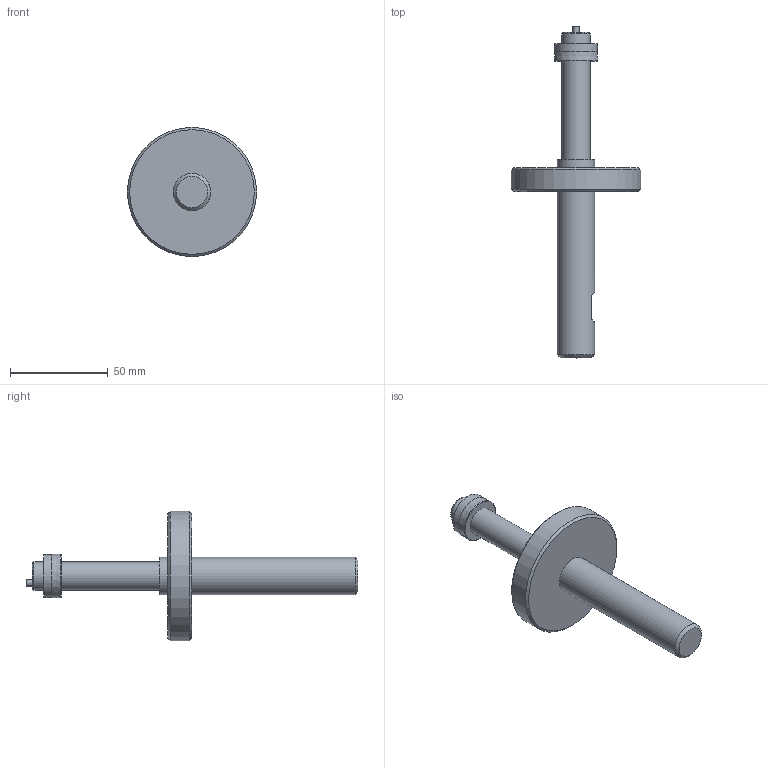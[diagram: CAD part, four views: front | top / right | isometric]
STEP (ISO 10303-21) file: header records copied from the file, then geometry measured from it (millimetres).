
FILE_DESCRIPTION (( 'STEP AP203' ), '1' );
FILE_NAME ('AF56-SIMPLE - AF56-14.50-22.50M.step', '2025-01-22T13:30:54', ( '' ), ( '' ), 'SwSTEP 2.0', 'SolidWorks 2024', '' );
FILE_SCHEMA (( 'CONFIG_CONTROL_DESIGN' ));
Length unit declared in the file: inch
Products named in the file (1): AF56-SIMPLE - AF56-14.50-22.50M
Bounding box: 66.04 x 169.8 x 66.04 mm (x, y, z)
Volume: 79281.7 mm3; surface area: 18006.5 mm2
Topology: 1 solids, 1 shells, 24 faces, 40 edges, 25 vertices
Faces by surface type: plane 11, cylinder 7, cone 5, torus 1
Full cylindrical faces by diameter (mm): 3.175 x1, 14.376 x2, 19.05 x2, 21.994 x1, 66.04 x1
Entity records: 569 total; most frequent: DIRECTION 94, CARTESIAN_POINT 81, ORIENTED_EDGE 52, AXIS2_PLACEMENT_3D 45, EDGE_LOOP 44, FACE_OUTER_BOUND 32, EDGE_CURVE 26, VERTEX_POINT 24
